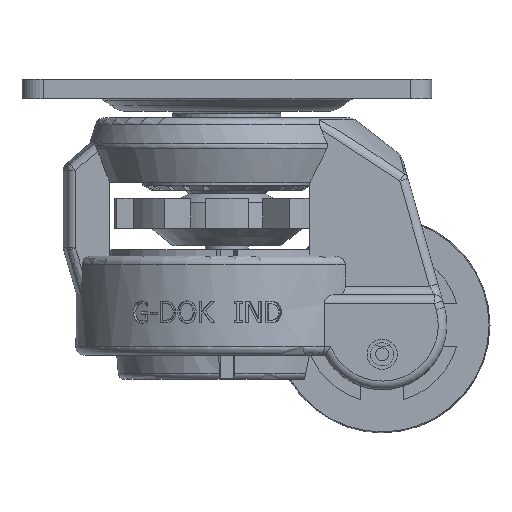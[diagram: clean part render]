
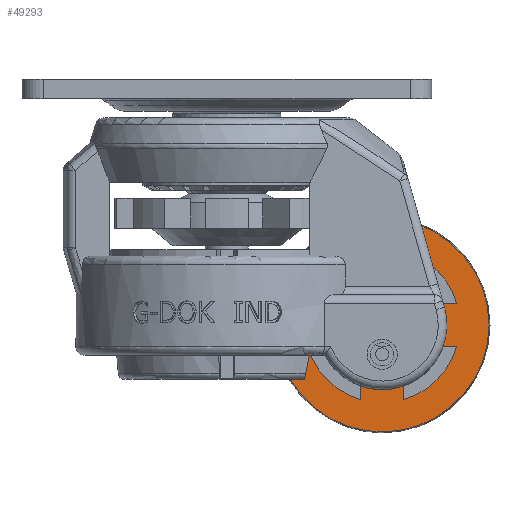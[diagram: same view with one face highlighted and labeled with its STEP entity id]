
A CAD part, front view. The second image highlights one B-rep face of the part: STEP entity #49293.
In plain terms, the highlighted planar face has unit normal (0, -1, 0).
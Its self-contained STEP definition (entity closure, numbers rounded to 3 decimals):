
#355=CARTESIAN_POINT('',(46.453,-12.063,-33.7));
#356=VERTEX_POINT('',#355);
#365=CARTESIAN_POINT('',(41.453,-12.063,-35.04));
#366=VERTEX_POINT('',#365);
#367=CARTESIAN_POINT('',(46.453,-12.063,-43.7));
#368=DIRECTION('',(0.,-1.0,0.));
#369=DIRECTION('',(0.,0.,1.0));
#370=AXIS2_PLACEMENT_3D('',#367,#368,#369);
#371=CIRCLE('',#370,10.0);
#372=EDGE_CURVE('',#356,#366,#371,.T.);
#391=CARTESIAN_POINT('',(37.793,-12.063,-38.7));
#392=VERTEX_POINT('',#391);
#399=CARTESIAN_POINT('',(37.793,-12.063,-48.7));
#400=VERTEX_POINT('',#399);
#401=CARTESIAN_POINT('',(46.453,-12.063,-43.7));
#402=DIRECTION('',(0.,-1.0,0.));
#403=DIRECTION('',(0.,0.,1.0));
#404=AXIS2_PLACEMENT_3D('',#401,#402,#403);
#405=CIRCLE('',#404,10.);
#406=EDGE_CURVE('',#392,#400,#405,.T.);
#425=CARTESIAN_POINT('',(41.453,-12.063,-52.36));
#426=VERTEX_POINT('',#425);
#433=CARTESIAN_POINT('',(46.453,-12.063,-53.7));
#434=VERTEX_POINT('',#433);
#435=CARTESIAN_POINT('',(46.453,-12.063,-43.7));
#436=DIRECTION('',(0.,-1.0,0.));
#437=DIRECTION('',(0.,0.,1.0));
#438=AXIS2_PLACEMENT_3D('',#435,#436,#437);
#439=CIRCLE('',#438,10.0);
#440=EDGE_CURVE('',#426,#434,#439,.T.);
#467=CARTESIAN_POINT('',(46.453,-12.063,-18.918));
#468=VERTEX_POINT('',#467);
#523=CARTESIAN_POINT('',(46.453,-12.063,-68.482));
#524=VERTEX_POINT('',#523);
#531=CARTESIAN_POINT('',(46.453,-12.063,-43.7));
#532=DIRECTION('',(0.,1.0,0.));
#533=DIRECTION('',(0.,0.,1.0));
#534=AXIS2_PLACEMENT_3D('',#531,#532,#533);
#535=CIRCLE('',#534,24.782);
#536=EDGE_CURVE('',#524,#468,#535,.T.);
#48878=CARTESIAN_POINT('',(46.453,-12.063,-43.7));
#48879=DIRECTION('',(0.,1.0,0.));
#48880=DIRECTION('',(0.,0.,1.0));
#48881=AXIS2_PLACEMENT_3D('',#48878,#48879,#48880);
#48882=CIRCLE('',#48881,24.782);
#48883=EDGE_CURVE('',#468,#524,#48882,.T.);
#48904=CARTESIAN_POINT('',(51.453,-12.063,-52.36));
#48905=VERTEX_POINT('',#48904);
#48906=CARTESIAN_POINT('',(46.453,-12.063,-43.7));
#48907=DIRECTION('',(0.,-1.0,0.));
#48908=DIRECTION('',(0.,0.,1.0));
#48909=AXIS2_PLACEMENT_3D('',#48906,#48907,#48908);
#48910=CIRCLE('',#48909,10.0);
#48911=EDGE_CURVE('',#434,#48905,#48910,.T.);
#48930=CARTESIAN_POINT('',(55.114,-12.063,-48.7));
#48931=VERTEX_POINT('',#48930);
#48938=CARTESIAN_POINT('',(55.114,-12.063,-38.7));
#48939=VERTEX_POINT('',#48938);
#48940=CARTESIAN_POINT('',(46.453,-12.063,-43.7));
#48941=DIRECTION('',(0.,-1.0,0.));
#48942=DIRECTION('',(0.,0.,1.0));
#48943=AXIS2_PLACEMENT_3D('',#48940,#48941,#48942);
#48944=CIRCLE('',#48943,10.0);
#48945=EDGE_CURVE('',#48931,#48939,#48944,.T.);
#48964=CARTESIAN_POINT('',(51.453,-12.063,-35.04));
#48965=VERTEX_POINT('',#48964);
#48972=CARTESIAN_POINT('',(46.453,-12.063,-43.7));
#48973=DIRECTION('',(0.,-1.0,0.));
#48974=DIRECTION('',(0.,0.,1.0));
#48975=AXIS2_PLACEMENT_3D('',#48972,#48973,#48974);
#48976=CIRCLE('',#48975,10.0);
#48977=EDGE_CURVE('',#48965,#356,#48976,.T.);
#49112=CARTESIAN_POINT('',(41.453,-12.063,-26.408));
#49113=VERTEX_POINT('',#49112);
#49127=CARTESIAN_POINT('',(41.453,-12.063,-35.04));
#49128=DIRECTION('',(0.,0.,1.0));
#49129=VECTOR('',#49128,8.631);
#49130=LINE('',#49127,#49129);
#49131=EDGE_CURVE('',#366,#49113,#49130,.T.);
#49172=CARTESIAN_POINT('',(51.453,-12.063,-26.408));
#49173=VERTEX_POINT('',#49172);
#49182=CARTESIAN_POINT('',(51.453,-12.063,-26.408));
#49183=DIRECTION('',(0.,0.,-1.0));
#49184=VECTOR('',#49183,8.631);
#49185=LINE('',#49182,#49184);
#49186=EDGE_CURVE('',#49173,#48965,#49185,.T.);
#49198=CARTESIAN_POINT('',(19.193,-12.063,-16.44));
#49199=DIRECTION('',(0.,-1.0,0.));
#49200=DIRECTION('',(0.0,0.,-1.0));
#49201=AXIS2_PLACEMENT_3D('',#49198,#49199,#49200);
#49202=PLANE('',#49201);
#49203=ORIENTED_EDGE('',*,*,#536,.F.);
#49204=ORIENTED_EDGE('',*,*,#48883,.F.);
#49205=EDGE_LOOP('',(#49203,#49204));
#49206=FACE_OUTER_BOUND('',#49205,.T.);
#49207=CARTESIAN_POINT('',(63.745,-12.063,-38.7));
#49208=VERTEX_POINT('',#49207);
#49209=CARTESIAN_POINT('',(46.453,-12.063,-43.7));
#49210=DIRECTION('',(0.,1.0,0.));
#49211=DIRECTION('',(0.,0.,1.0));
#49212=AXIS2_PLACEMENT_3D('',#49209,#49210,#49211);
#49213=CIRCLE('',#49212,18.);
#49214=EDGE_CURVE('',#49173,#49208,#49213,.T.);
#49215=ORIENTED_EDGE('',*,*,#49214,.T.);
#49216=CARTESIAN_POINT('',(55.114,-12.063,-38.7));
#49217=DIRECTION('',(1.0,0.,0.0));
#49218=VECTOR('',#49217,8.631);
#49219=LINE('',#49216,#49218);
#49220=EDGE_CURVE('',#48939,#49208,#49219,.T.);
#49221=ORIENTED_EDGE('',*,*,#49220,.F.);
#49222=ORIENTED_EDGE('',*,*,#48945,.F.);
#49223=CARTESIAN_POINT('',(63.745,-12.063,-48.7));
#49224=VERTEX_POINT('',#49223);
#49225=CARTESIAN_POINT('',(63.745,-12.063,-48.7));
#49226=DIRECTION('',(-1.0,0.,0.0));
#49227=VECTOR('',#49226,8.631);
#49228=LINE('',#49225,#49227);
#49229=EDGE_CURVE('',#49224,#48931,#49228,.T.);
#49230=ORIENTED_EDGE('',*,*,#49229,.F.);
#49231=CARTESIAN_POINT('',(51.453,-12.063,-60.992));
#49232=VERTEX_POINT('',#49231);
#49233=CARTESIAN_POINT('',(46.453,-12.063,-43.7));
#49234=DIRECTION('',(0.,1.0,0.));
#49235=DIRECTION('',(0.,0.,1.0));
#49236=AXIS2_PLACEMENT_3D('',#49233,#49234,#49235);
#49237=CIRCLE('',#49236,18.);
#49238=EDGE_CURVE('',#49224,#49232,#49237,.T.);
#49239=ORIENTED_EDGE('',*,*,#49238,.T.);
#49240=CARTESIAN_POINT('',(51.453,-12.063,-52.36));
#49241=DIRECTION('',(0.0,0.,-1.0));
#49242=VECTOR('',#49241,8.631);
#49243=LINE('',#49240,#49242);
#49244=EDGE_CURVE('',#48905,#49232,#49243,.T.);
#49245=ORIENTED_EDGE('',*,*,#49244,.F.);
#49246=ORIENTED_EDGE('',*,*,#48911,.F.);
#49247=ORIENTED_EDGE('',*,*,#440,.F.);
#49248=CARTESIAN_POINT('',(41.453,-12.063,-60.992));
#49249=VERTEX_POINT('',#49248);
#49250=CARTESIAN_POINT('',(41.453,-12.063,-60.992));
#49251=DIRECTION('',(0.0,0.,1.0));
#49252=VECTOR('',#49251,8.631);
#49253=LINE('',#49250,#49252);
#49254=EDGE_CURVE('',#49249,#426,#49253,.T.);
#49255=ORIENTED_EDGE('',*,*,#49254,.F.);
#49256=CARTESIAN_POINT('',(29.162,-12.063,-48.7));
#49257=VERTEX_POINT('',#49256);
#49258=CARTESIAN_POINT('',(46.453,-12.063,-43.7));
#49259=DIRECTION('',(0.,1.0,0.));
#49260=DIRECTION('',(0.,0.,1.0));
#49261=AXIS2_PLACEMENT_3D('',#49258,#49259,#49260);
#49262=CIRCLE('',#49261,18.);
#49263=EDGE_CURVE('',#49249,#49257,#49262,.T.);
#49264=ORIENTED_EDGE('',*,*,#49263,.T.);
#49265=CARTESIAN_POINT('',(37.793,-12.063,-48.7));
#49266=DIRECTION('',(-1.0,0.,0.0));
#49267=VECTOR('',#49266,8.631);
#49268=LINE('',#49265,#49267);
#49269=EDGE_CURVE('',#400,#49257,#49268,.T.);
#49270=ORIENTED_EDGE('',*,*,#49269,.F.);
#49271=ORIENTED_EDGE('',*,*,#406,.F.);
#49272=CARTESIAN_POINT('',(29.162,-12.063,-38.7));
#49273=VERTEX_POINT('',#49272);
#49274=CARTESIAN_POINT('',(29.162,-12.063,-38.7));
#49275=DIRECTION('',(1.0,0.,0.0));
#49276=VECTOR('',#49275,8.631);
#49277=LINE('',#49274,#49276);
#49278=EDGE_CURVE('',#49273,#392,#49277,.T.);
#49279=ORIENTED_EDGE('',*,*,#49278,.F.);
#49280=CARTESIAN_POINT('',(46.453,-12.063,-43.7));
#49281=DIRECTION('',(0.,1.0,0.));
#49282=DIRECTION('',(0.,0.,1.0));
#49283=AXIS2_PLACEMENT_3D('',#49280,#49281,#49282);
#49284=CIRCLE('',#49283,18.);
#49285=EDGE_CURVE('',#49273,#49113,#49284,.T.);
#49286=ORIENTED_EDGE('',*,*,#49285,.T.);
#49287=ORIENTED_EDGE('',*,*,#49131,.F.);
#49288=ORIENTED_EDGE('',*,*,#372,.F.);
#49289=ORIENTED_EDGE('',*,*,#48977,.F.);
#49290=ORIENTED_EDGE('',*,*,#49186,.F.);
#49291=EDGE_LOOP('',(#49215,#49221,#49222,#49230,#49239,#49245,#49246,#49247,#49255,#49264,#49270,#49271,#49279,#49286,#49287,#49288,#49289,#49290));
#49292=FACE_BOUND('',#49291,.T.);
#49293=ADVANCED_FACE('',(#49206,#49292),#49202,.T.);
